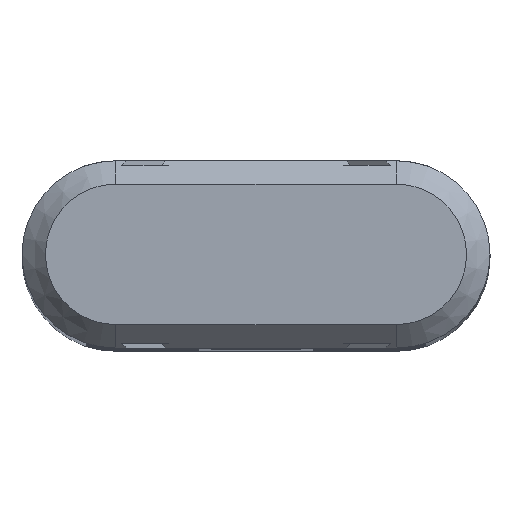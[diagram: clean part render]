
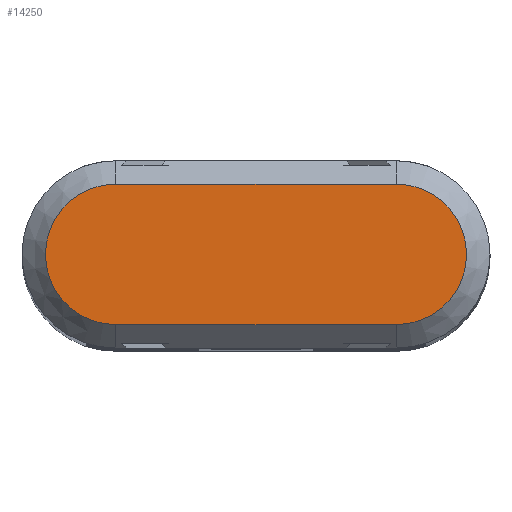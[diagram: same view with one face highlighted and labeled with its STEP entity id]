
A CAD part, top view. The second image highlights one B-rep face of the part: STEP entity #14250.
In plain terms, the highlighted planar face has unit normal (0, 0, 1).
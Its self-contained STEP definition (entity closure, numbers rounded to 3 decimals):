
#13840=CARTESIAN_POINT('',(13.869,4.044,-12.4));
#13850=DIRECTION('',(0.,0.,-1.));
#13860=DIRECTION('',(-1.,0.,0.));
#13870=AXIS2_PLACEMENT_3D('',#13840,#13850,#13860);
#13880=PLANE('',#13870);
#13890=CARTESIAN_POINT('',(13.869,1.044,-12.4));
#13900=DIRECTION('',(-1.,0.,0.));
#13910=VECTOR('',#13900,1.);
#13920=LINE('',#13890,#13910);
#13930=CARTESIAN_POINT('',(19.869,1.044,-12.4));
#13940=VERTEX_POINT('',#13930);
#13950=CARTESIAN_POINT('',(7.869,1.044,-12.4));
#13960=VERTEX_POINT('',#13950);
#13970=EDGE_CURVE('',#13940,#13960,#13920,.T.);
#13980=ORIENTED_EDGE('',*,*,#13970,.F.);
#13990=CARTESIAN_POINT('',(7.869,4.044,-12.4));
#14000=DIRECTION('',(0.,0.,-1.));
#14010=DIRECTION('',(-1.,0.,0.));
#14020=AXIS2_PLACEMENT_3D('',#13990,#14000,#14010);
#14030=CIRCLE('',#14020,3.);
#14040=CARTESIAN_POINT('',(7.869,7.044,-12.4));
#14050=VERTEX_POINT('',#14040);
#14060=EDGE_CURVE('',#13960,#14050,#14030,.T.);
#14070=ORIENTED_EDGE('',*,*,#14060,.F.);
#14080=CARTESIAN_POINT('',(13.869,7.044,-12.4));
#14090=DIRECTION('',(1.,0.,0.));
#14100=VECTOR('',#14090,1.);
#14110=LINE('',#14080,#14100);
#14120=CARTESIAN_POINT('',(19.869,7.044,-12.4));
#14130=VERTEX_POINT('',#14120);
#14140=EDGE_CURVE('',#14050,#14130,#14110,.T.);
#14150=ORIENTED_EDGE('',*,*,#14140,.F.);
#14160=CARTESIAN_POINT('',(19.869,4.044,-12.4));
#14170=DIRECTION('',(0.,0.,-1.));
#14180=DIRECTION('',(-1.,0.,0.));
#14190=AXIS2_PLACEMENT_3D('',#14160,#14170,#14180);
#14200=CIRCLE('',#14190,3.);
#14210=EDGE_CURVE('',#14130,#13940,#14200,.T.);
#14220=ORIENTED_EDGE('',*,*,#14210,.F.);
#14230=EDGE_LOOP('',(#14220,#14150,#14070,#13980));
#14240=FACE_OUTER_BOUND('',#14230,.T.);
#14250=ADVANCED_FACE('',(#14240),#13880,.F.);
